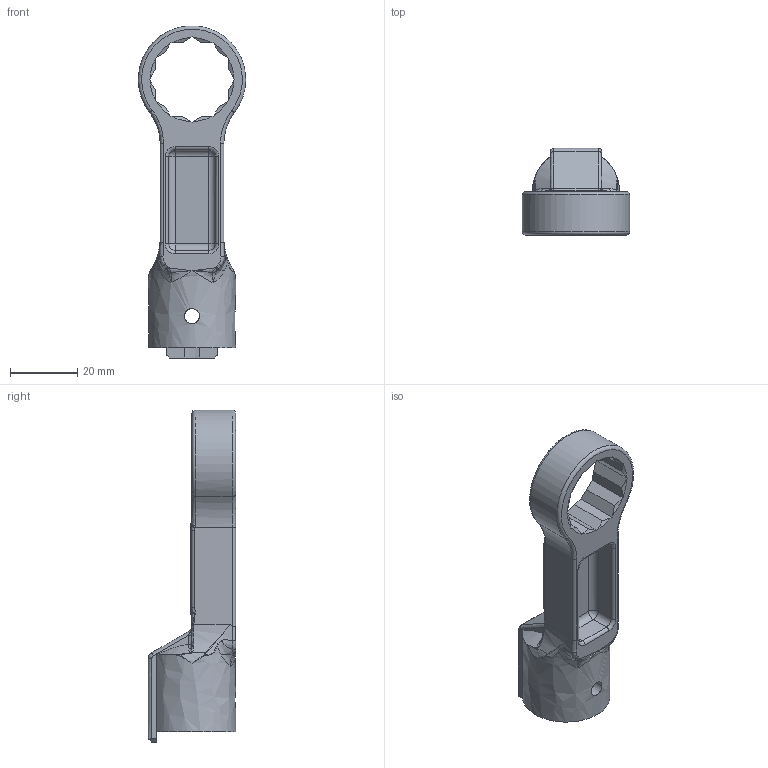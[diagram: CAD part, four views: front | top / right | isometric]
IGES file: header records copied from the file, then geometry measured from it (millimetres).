
Global section: file name: RH19DX22; native system: Autodesk Inventor 2016; preprocessor: unknown; author: q543; date: 20151110.165913; units: millimetre
Bounding box: 32 x 26 x 98.96 mm (x, y, z)
Volume: 18688.5 mm3; surface area: 10159.1 mm2
Topology: 1 solids, 1 shells, 230 faces, 588 edges, 340 vertices
Faces by surface type: bspline 230
